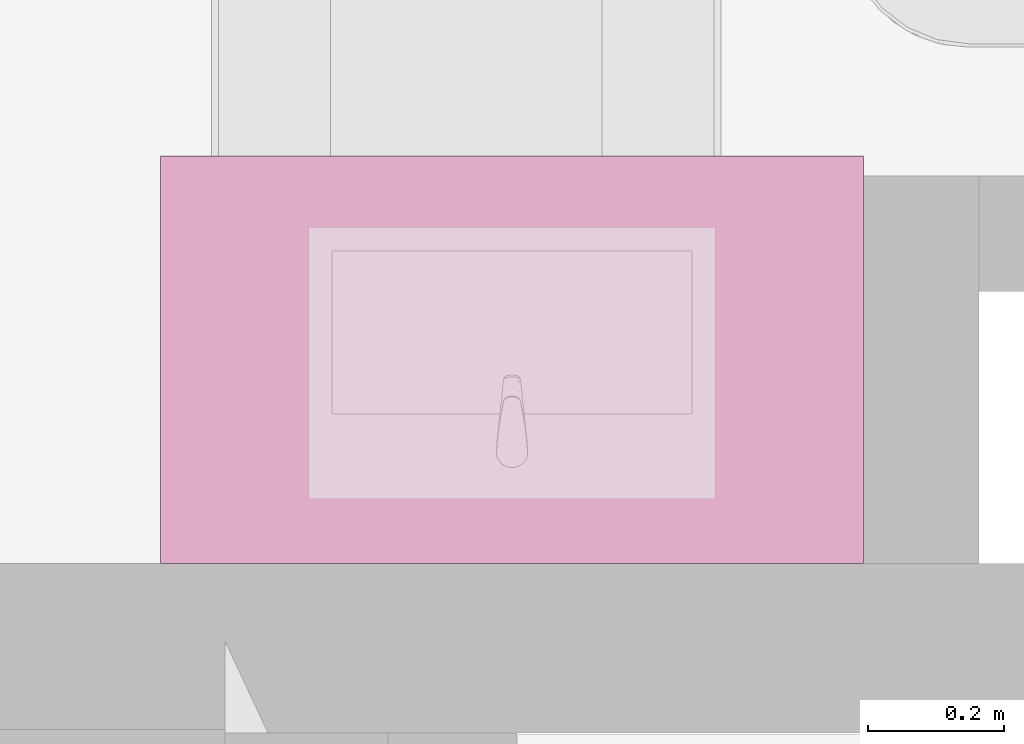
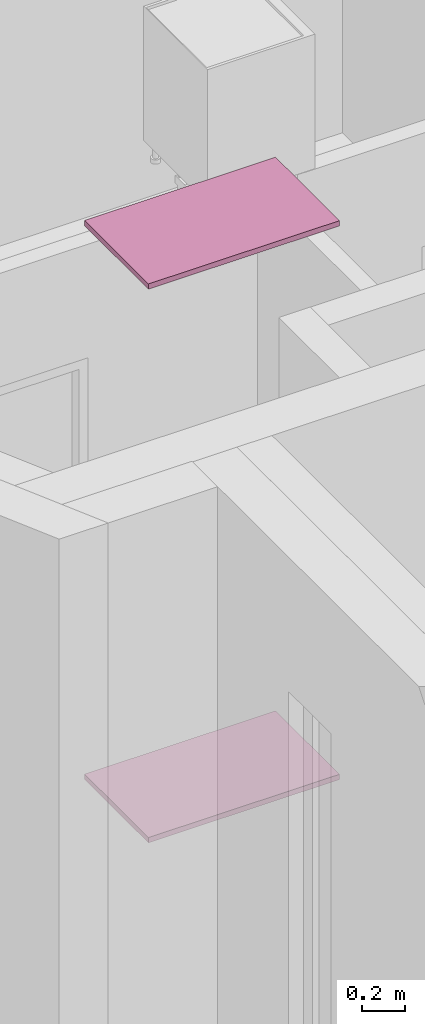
# One storey, part 57 of 125: 2 furnishings.
"""IFC2X3 building model written with IfcOpenShell, lengths in millimetres."""

from ifc_helpers import new_model, entity, si_unit, converted_unit, direction, frame, frame_2d, origin, place, context, subcontext, project, spatial, rectangle, extrude, source, transform, mapped, material, type_object, type_shapes, element, save


model = new_model("IFC2X3")

# Units and contexts
model_context = context("Model", 3, precision=0.01, world=origin(), true_north=direction((6.123233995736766e-17, 1.0)))
plan_context = context("Plan", 3, precision=0.01, world=origin(), true_north=direction((6.123233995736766e-17, 1.0)))
body_context = subcontext(model_context, "Body", "Model", "MODEL_VIEW")
ifc_project = project(units=[si_unit("LENGTHUNIT", "METRE", prefix="MILLI"), converted_unit("PLANEANGLEUNIT", "DEGREE", entity("IfcPlaneAngleMeasure", 0.017453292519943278), si_unit("PLANEANGLEUNIT", "RADIAN"), dimensions=[0, 0, 0, 0, 0, 0, 0]), si_unit("AREAUNIT", "SQUARE_METRE")], contexts=[model_context, plan_context])

# Site, building, storey, space
site_placement = place(None, origin())
site = spatial("IfcSite", under=ifc_project, at=site_placement, Name="Default", CompositionType="ELEMENT")
building_placement = place(site_placement, origin())
building = spatial("IfcBuilding", under=site, at=building_placement, CompositionType="ELEMENT")
storey_placement = place(building_placement, frame((0.0, 0.0, 3125.0)))
storey = spatial("IfcBuildingStorey", under=building, at=storey_placement, Name="2K", CompositionType="ELEMENT", Elevation=3125.0)
space_placement = place(storey_placement, origin())
space = spatial("IfcSpace", under=storey, at=space_placement, Name="2-1.4", CompositionType="ELEMENT", InteriorOrExteriorSpace="INTERNAL")

# Furnishings
ifc_material = material(Name="<Unnamed>")
furniture_type = type_object("IfcFurnitureType", Name="HR_Casework_Work-surface_Generic_Rectangular_v1:Default", AssemblyPlace="NOTDEFINED", material=ifc_material)
shared_shape = source(origin(), body_context, "Body", "SweptSolid", [
    extrude(rectangle(XDim=1035.0064650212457, YDim=600.0, at=frame_2d((8.526512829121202e-13, 0.0), x_axis=(1.0, 0.0))), frame((0.0, 300.0, -2255.0)), (0.0, 0.0, 1.0), 29.999999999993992),
])
type_shapes(furniture_type, [shared_shape])
for number, where, z_axis, x_axis, name in (
    (1, (-7.503232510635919, 7249.999959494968, 3125.0), (0.0, 0.0, 1.0), (-1.0, 0.0, 0.0), "HR_Casework_Work-surface_Generic_Rectangular_v1:Default"),
    (2, (-7.503232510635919, 7249.999959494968, 6295.0), (0.0, 0.0, 1.0), (-1.0, 0.0, 0.0), "HR_Casework_Work-surface_Generic_Rectangular_v1:Default"),
):
    element("IfcFurnishingElement", number, at=place(space_placement, frame(where, z_axis=z_axis, x_axis=x_axis)), inside=space, type_object=furniture_type, material=ifc_material, Name=name, ObjectType="HR_Casework_Work-surface_Generic_Rectangular_v1:Default", context=body_context, shape_type="MappedRepresentation", body=[
        mapped(shared_shape, transform((0.0, 0.0, 0.0), scale=1.0)),
    ])

save(model, "model.ifc")
